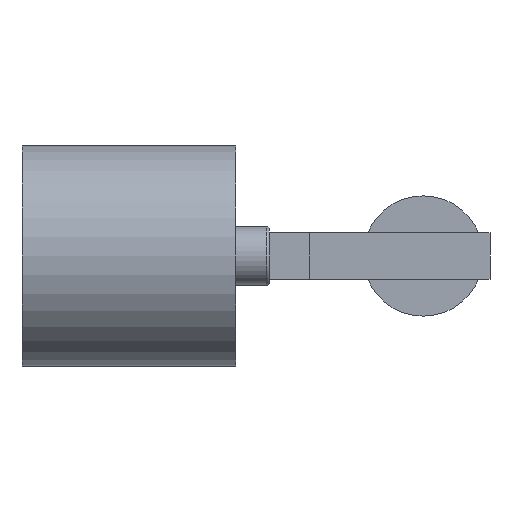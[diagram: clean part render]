
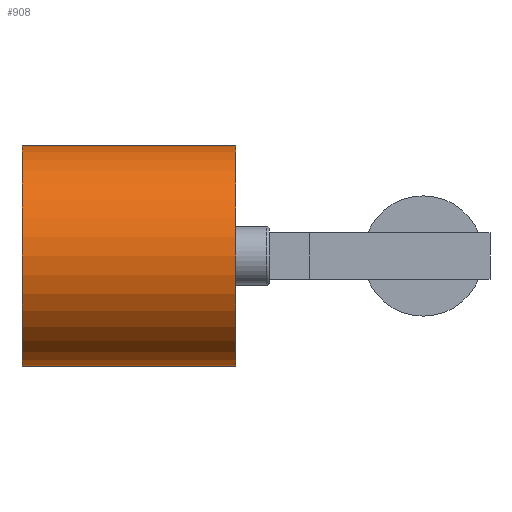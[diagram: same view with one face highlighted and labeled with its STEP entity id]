
A CAD part, left-side view. The second image highlights one B-rep face of the part: STEP entity #908.
In plain terms, the highlighted cylindrical face has radius 82.5 mm (diameter 165 mm), a full revolution.
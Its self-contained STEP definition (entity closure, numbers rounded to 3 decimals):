
#79=LINE('',#1683,#125);
#125=VECTOR('',#1283,82.5);
#171=CYLINDRICAL_SURFACE('',#1045,82.5);
#260=FACE_OUTER_BOUND('',#344,.T.);
#344=EDGE_LOOP('',(#746,#747,#748,#749));
#419=CIRCLE('',#1046,82.5);
#420=CIRCLE('',#1047,82.5);
#482=VERTEX_POINT('',#1680);
#483=VERTEX_POINT('',#1682);
#577=EDGE_CURVE('',#482,#482,#419,.T.);
#578=EDGE_CURVE('',#482,#483,#79,.T.);
#579=EDGE_CURVE('',#483,#483,#420,.T.);
#746=ORIENTED_EDGE('',*,*,#577,.F.);
#747=ORIENTED_EDGE('',*,*,#578,.T.);
#748=ORIENTED_EDGE('',*,*,#579,.T.);
#749=ORIENTED_EDGE('',*,*,#578,.F.);
#908=ADVANCED_FACE('',(#260),#171,.T.);
#1045=AXIS2_PLACEMENT_3D('',#1679,#1279,#1280);
#1046=AXIS2_PLACEMENT_3D('',#1681,#1281,#1282);
#1047=AXIS2_PLACEMENT_3D('',#1684,#1284,#1285);
#1279=DIRECTION('center_axis',(0.,-1.,0.));
#1280=DIRECTION('ref_axis',(1.,0.,0.));
#1281=DIRECTION('center_axis',(0.,-1.,0.));
#1282=DIRECTION('ref_axis',(1.,0.,0.));
#1283=DIRECTION('',(0.,1.,0.));
#1284=DIRECTION('center_axis',(0.,-1.,0.));
#1285=DIRECTION('ref_axis',(1.,0.,0.));
#1679=CARTESIAN_POINT('Origin',(-7.5,1265.,0.));
#1680=CARTESIAN_POINT('',(-90.,1105.,0.));
#1681=CARTESIAN_POINT('Origin',(-7.5,1105.,0.));
#1682=CARTESIAN_POINT('',(-90.,1265.,0.));
#1683=CARTESIAN_POINT('',(-90.,1265.,0.));
#1684=CARTESIAN_POINT('Origin',(-7.5,1265.,0.));
